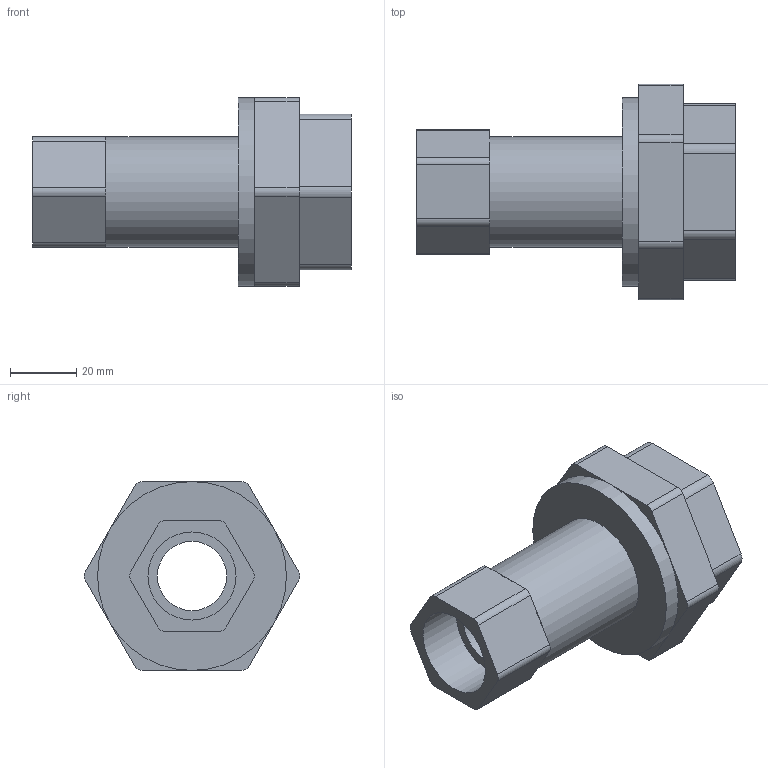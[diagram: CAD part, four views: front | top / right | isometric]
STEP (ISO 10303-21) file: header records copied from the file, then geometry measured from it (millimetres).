
FILE_DESCRIPTION(/* description */ ('VIC VALVE BALANCING LOW LEAD TA SERIES 76X (FPT)-POTABLE WATER'),/* implementation_level */ '2;1');
FILE_NAME(/* name */ 'C:\Files for Export\76X\Victaulic_IPS-HB_Valve ICSS-Low Lead Balancing POTW_TA Series 76X (FPT)\Victaulic_IPS-HB_Valve ICSS-Low Lead Balancing POTW_TA Series 76X (FPT)_0.75 (20).stp',/* time_stamp */ '2024-03-08T10:54:04+01:00',/* author */ ('Vjadhav'),/* organization */ ('Victaulic'),/* preprocessor_version */ 'ST-DEVELOPER v18.1',/* originating_system */ 'Autodesk Inventor 2020',/* authorisation */ '');
FILE_SCHEMA (('AUTOMOTIVE_DESIGN { 1 0 10303 214 3 1 1 }'));
Length unit declared in the file: inch
Products named in the file (1): 76X-0.75
Bounding box: 96.52 x 65.21 x 57.15 mm (x, y, z)
Volume: 98238.1 mm3; surface area: 24820 mm2
Topology: 1 solids, 1 shells, 59 faces, 152 edges, 99 vertices
Faces by surface type: plane 36, cylinder 23
Full cylindrical faces by diameter (mm): 20.93 x1, 26.67 x2, 33.401 x1, 57.15 x1
Entity records: 1919 total; most frequent: DIRECTION 335, CARTESIAN_POINT 311, ORIENTED_EDGE 304, EDGE_CURVE 152, AXIS2_PLACEMENT_3D 123, VERTEX_POINT 99, LINE 89, VECTOR 89
